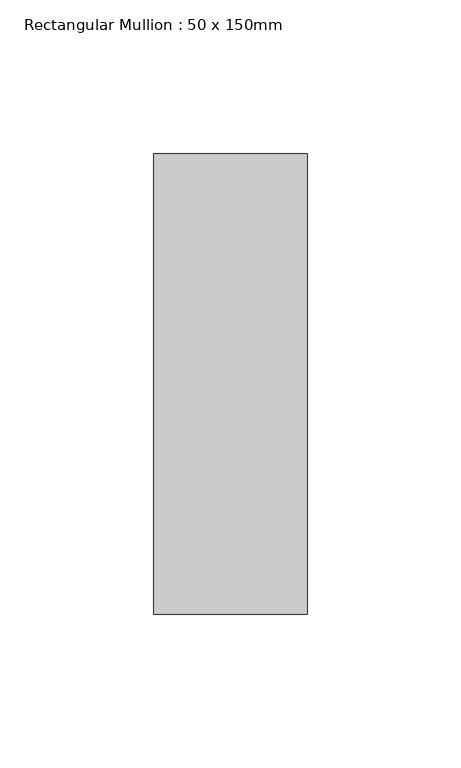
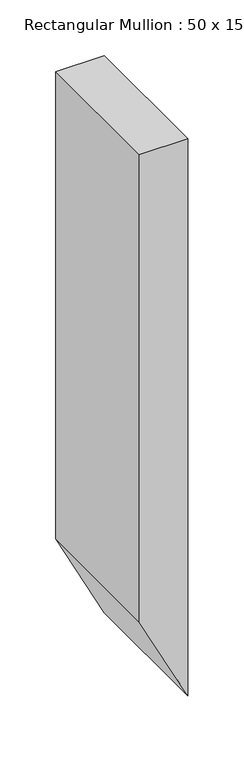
"""IFC4 building model written with IfcOpenShell, lengths in millimetres: member geometry, Rectangular Mullion : 50 x 150mm."""

from ifc_helpers import new_model, si_unit, frame, origin, place, context, project, spatial, polyline, outline, extrude, source, transform, mapped, element, save


def rectangular_mullion_50_x_150mm_e1e52ecf(model_context):
    return source(origin(), model_context, "Body", "SweptSolid", [
        extrude(outline(polyline([(0.0, 0.0), (0.0, -50.0), (-511.5132987, -50.0), (-609.643824, 0.0), (0.0, 0.0)])), frame((0.0, -75.0, 0.0), z_axis=(0.0, 1.0, 0.0), x_axis=(0.0, 0.0, 1.0)), (0.0, 0.0, 1.0), 150.0),
    ])


if __name__ == "__main__":
    model = new_model("IFC4")
    model_context = context("Model", 3, world=origin())
    ifc_project = project(units=[si_unit("LENGTHUNIT", "METRE", prefix="MILLI")], contexts=[model_context])
    site = spatial("IfcSite", under=ifc_project)
    building = spatial("IfcBuilding", under=site)
    placement = place(None, origin())
    rectangular_mullion_50_x_150mm_shape = rectangular_mullion_50_x_150mm_e1e52ecf(model_context)
    element("IfcMember", 1, ObjectType="Rectangular Mullion : 50 x 150mm", at=placement, inside=building, context=model_context, shape_type="MappedRepresentation", body=[
        mapped(rectangular_mullion_50_x_150mm_shape, transform((0.0, 0.0, 0.0), x_axis=(1.0, 0.0, 0.0), y_axis=(0.0, 1.0, 0.0), z_axis=(0.0, 0.0, 1.0))),
    ])
    save(model, "model.ifc")
